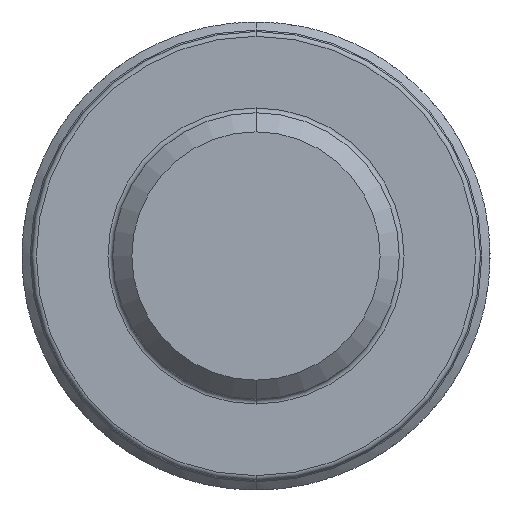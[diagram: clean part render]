
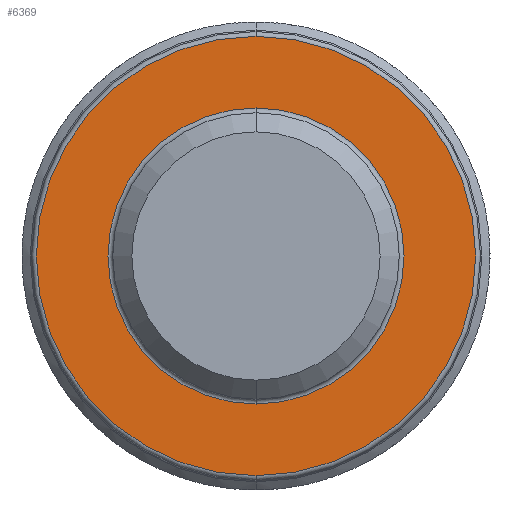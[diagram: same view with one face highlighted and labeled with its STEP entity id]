
A CAD part, front view. The second image highlights one B-rep face of the part: STEP entity #6369.
In plain terms, the highlighted planar face has unit normal (0, -1, 0).
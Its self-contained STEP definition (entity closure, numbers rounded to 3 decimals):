
#46 = DIRECTION ( 'NONE',  ( 0., 0., -1. ) ) ;
#318 = CARTESIAN_POINT ( 'NONE',  ( 0., -6., 0. ) ) ;
#515 = CIRCLE ( 'NONE', #2671, 4.6 ) ;
#684 = DIRECTION ( 'NONE',  ( 0., 0., -1. ) ) ;
#743 = ORIENTED_EDGE ( 'NONE', *, *, #7139, .T. ) ;
#885 = AXIS2_PLACEMENT_3D ( 'NONE', #7194, #2081, #46 ) ;
#983 = DIRECTION ( 'NONE',  ( 0., -1., 0. ) ) ;
#1371 = CIRCLE ( 'NONE', #7169, 3.1 ) ;
#1602 = CIRCLE ( 'NONE', #5896, 3.1 ) ;
#1692 = DIRECTION ( 'NONE',  ( 0., -1., 0. ) ) ;
#1718 = VERTEX_POINT ( 'NONE', #3202 ) ;
#1744 = CARTESIAN_POINT ( 'NONE',  ( 0., -6., 0. ) ) ;
#2043 = PLANE ( 'NONE',  #885 ) ;
#2081 = DIRECTION ( 'NONE',  ( 0., -1., 0. ) ) ;
#2093 = CIRCLE ( 'NONE', #6398, 4.6 ) ;
#2110 = VERTEX_POINT ( 'NONE', #7255 ) ;
#2218 = EDGE_CURVE ( 'NONE', #2110, #1718, #1602, .T. ) ;
#2296 = EDGE_LOOP ( 'NONE', ( #743, #4091 ) ) ;
#2355 = EDGE_CURVE ( 'NONE', #2613, #5981, #515, .T. ) ;
#2613 = VERTEX_POINT ( 'NONE', #3375 ) ;
#2671 = AXIS2_PLACEMENT_3D ( 'NONE', #1744, #983, #4270 ) ;
#2894 = DIRECTION ( 'NONE',  ( 0., 1., 0. ) ) ;
#3202 = CARTESIAN_POINT ( 'NONE',  ( 0., -6., -3.1 ) ) ;
#3375 = CARTESIAN_POINT ( 'NONE',  ( 0., -6., 4.6 ) ) ;
#3621 = DIRECTION ( 'NONE',  ( 0., 0., -1. ) ) ;
#3899 = FACE_OUTER_BOUND ( 'NONE', #6245, .T. ) ;
#4091 = ORIENTED_EDGE ( 'NONE', *, *, #2218, .T. ) ;
#4261 = DIRECTION ( 'NONE',  ( 0., 0., -1. ) ) ;
#4270 = DIRECTION ( 'NONE',  ( 0., 0., -1. ) ) ;
#4625 = CARTESIAN_POINT ( 'NONE',  ( 0., -6., -4.6 ) ) ;
#4673 = CARTESIAN_POINT ( 'NONE',  ( 0., -6., 0. ) ) ;
#4952 = ORIENTED_EDGE ( 'NONE', *, *, #5491, .T. ) ;
#5491 = EDGE_CURVE ( 'NONE', #5981, #2613, #2093, .T. ) ;
#5896 = AXIS2_PLACEMENT_3D ( 'NONE', #318, #2894, #3621 ) ;
#5981 = VERTEX_POINT ( 'NONE', #4625 ) ;
#6245 = EDGE_LOOP ( 'NONE', ( #4952, #7231 ) ) ;
#6369 = ADVANCED_FACE ( 'NONE', ( #7834, #3899 ), #2043, .T. ) ;
#6398 = AXIS2_PLACEMENT_3D ( 'NONE', #7483, #1692, #4261 ) ;
#7139 = EDGE_CURVE ( 'NONE', #1718, #2110, #1371, .T. ) ;
#7169 = AXIS2_PLACEMENT_3D ( 'NONE', #4673, #7786, #684 ) ;
#7194 = CARTESIAN_POINT ( 'NONE',  ( 3., -6., 0. ) ) ;
#7231 = ORIENTED_EDGE ( 'NONE', *, *, #2355, .T. ) ;
#7255 = CARTESIAN_POINT ( 'NONE',  ( 0., -6., 3.1 ) ) ;
#7483 = CARTESIAN_POINT ( 'NONE',  ( 0., -6., 0. ) ) ;
#7786 = DIRECTION ( 'NONE',  ( 0., 1., 0. ) ) ;
#7834 = FACE_BOUND ( 'NONE', #2296, .T. ) ;
